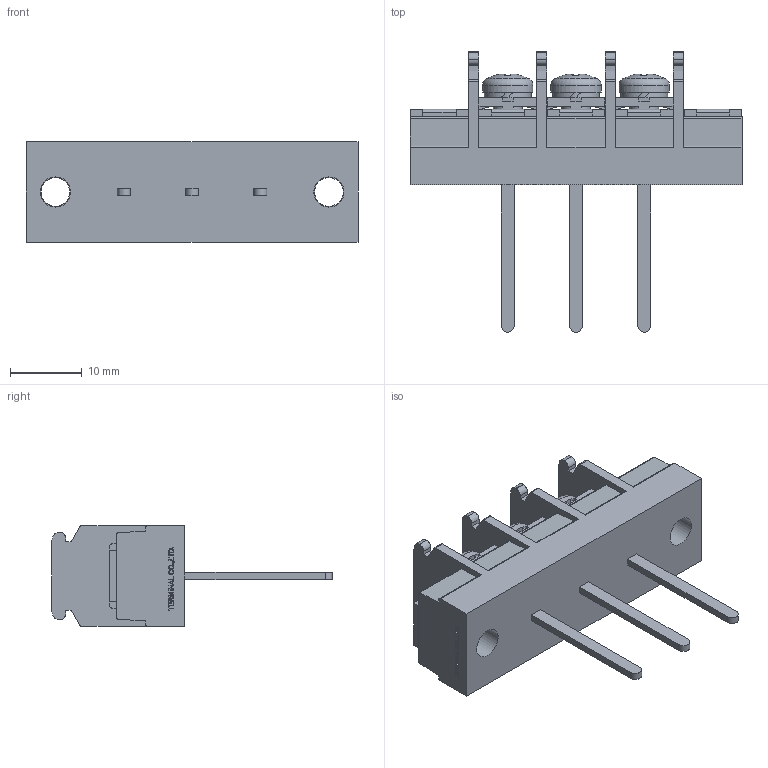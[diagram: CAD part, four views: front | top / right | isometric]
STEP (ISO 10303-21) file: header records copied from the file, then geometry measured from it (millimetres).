
FILE_DESCRIPTION(/* description */ ('Alibre Inc.'),/* implementation_level */ '2;1');
FILE_NAME(/* name */ 'export-4282DBD9-23C0-4621-A011-6AE67DAD6D01',/* time_stamp */ '2021-02-13T17:30:02+09:00',/* author */ (''),/* organization */ (''),/* preprocessor_version */ 'ST-DEVELOPER v17',/* originating_system */ 'Alibre',/* authorisation */ '');
FILE_SCHEMA (('CONFIG_CONTROL_DESIGN'));
Length unit declared in the file: millimetre
Bounding box: 46.2 x 39 x 14 mm (x, y, z)
Volume: 7153.7 mm3; surface area: 5097.9 mm2
Topology: 1 solids, 20 shells, 802 faces, 2191 edges, 1447 vertices
Faces by surface type: plane 590, bspline 104, cylinder 84, cone 15, torus 6, sphere 3
Full cylindrical faces by diameter (mm): 4 x8, 4.2 x2, 7 x3
Entity records: 24286 total; most frequent: CARTESIAN_POINT 5350, ORIENTED_EDGE 4322, DIRECTION 2915, EDGE_CURVE 2161, VECTOR 1613, LINE 1613, VERTEX_POINT 1439, AXIS2_PLACEMENT_3D 930
